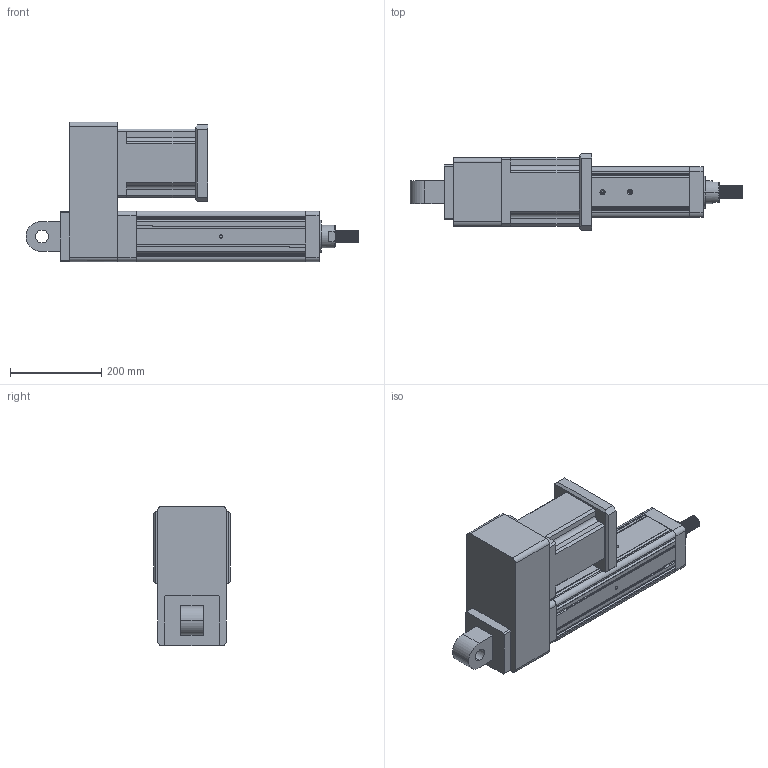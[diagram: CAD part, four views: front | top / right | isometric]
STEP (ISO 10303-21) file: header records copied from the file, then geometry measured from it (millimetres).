
FILE_DESCRIPTION (( 'STEP AP203' ), '1' );
FILE_NAME ('YRJ110-L200-H6K1.STEP', '2020-01-04T07:09:16', ( 'User' ), ( 'China' ), 'SwSTEP 2.0', 'SolidWorks 2016', '' );
FILE_SCHEMA (( 'CONFIG_CONTROL_DESIGN' ));
Length unit declared in the file: millimetre
Products named in the file (8): K1-110; YRJ110-L200-H6K1; 095-100俴最倰第; 萇儂碟-110; 142熬厒儂; H5-110-1; H6-110; H3-110-2
Assembly tree (7 placements, depth 2):
  YRJ110-L200-H6K1
    095-100俴最倰第
    萇儂碟-110
    142熬厒儂
    H5-110-1
    H6-110
    H3-110-2
    K1-110
Bounding box: 726 x 168 x 305.5 mm (x, y, z)
Volume: 11792033.2 mm3; surface area: 866143.2 mm2
Topology: 7 solids, 7 shells, 369 faces, 1016 edges, 658 vertices
Faces by surface type: plane 180, cylinder 158, cone 27, bspline 4
Entity records: 20486 total; most frequent: CARTESIAN_POINT 10386, ORIENTED_EDGE 2000, DIRECTION 1860, EDGE_CURVE 1000, VERTEX_POINT 658, LINE 636, VECTOR 636, AXIS2_PLACEMENT_3D 612
